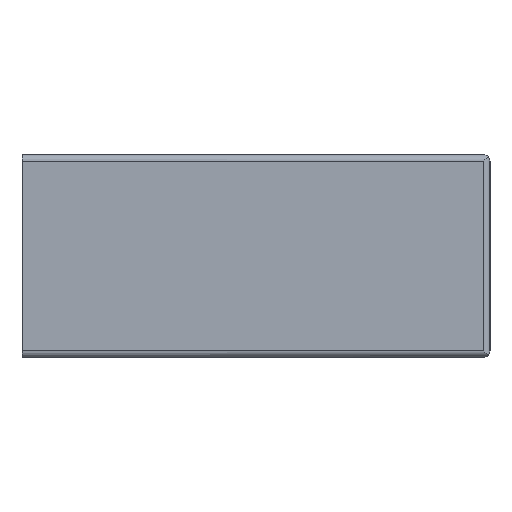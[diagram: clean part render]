
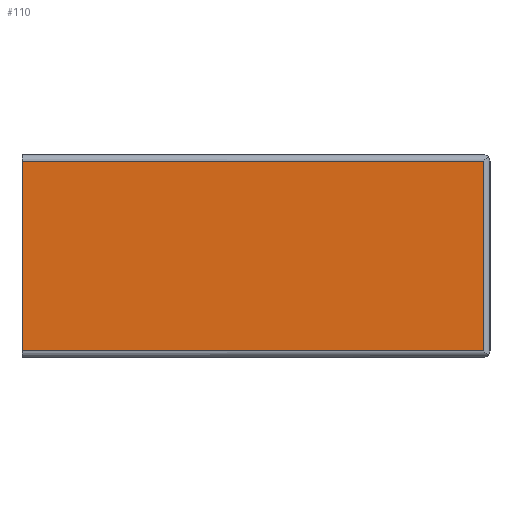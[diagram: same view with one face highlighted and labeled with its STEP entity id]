
A CAD part, left-side view. The second image highlights one B-rep face of the part: STEP entity #110.
In plain terms, the highlighted planar face has unit normal (-1, 0, 0).
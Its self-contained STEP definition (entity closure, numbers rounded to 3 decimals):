
#110 = ADVANCED_FACE( '', ( #184 ), #185, .T. );
#184 = FACE_OUTER_BOUND( '', #258, .T. );
#185 = PLANE( '', #259 );
#258 = EDGE_LOOP( '', ( #537, #538, #539, #540 ) );
#259 = AXIS2_PLACEMENT_3D( '', #541, #542, #543 );
#537 = ORIENTED_EDGE( '', *, *, #615, .T. );
#538 = ORIENTED_EDGE( '', *, *, #631, .T. );
#539 = ORIENTED_EDGE( '', *, *, #618, .F. );
#540 = ORIENTED_EDGE( '', *, *, #623, .F. );
#541 = CARTESIAN_POINT( '', ( -7.5, 0., 8. ) );
#542 = DIRECTION( '', ( -1., 0., 0. ) );
#543 = DIRECTION( '', ( 0., 1., 0. ) );
#615 = EDGE_CURVE( '', #755, #753, #756, .T. );
#618 = EDGE_CURVE( '', #758, #760, #761, .T. );
#623 = EDGE_CURVE( '', #755, #758, #767, .T. );
#631 = EDGE_CURVE( '', #753, #760, #775, .T. );
#753 = VERTEX_POINT( '', #939 );
#755 = VERTEX_POINT( '', #941 );
#756 = LINE( '', #942, #943 );
#758 = VERTEX_POINT( '', #945 );
#760 = VERTEX_POINT( '', #947 );
#761 = LINE( '', #948, #949 );
#767 = LINE( '', #958, #959 );
#775 = LINE( '', #970, #971 );
#939 = CARTESIAN_POINT( '', ( -7.5, 0., 7.5 ) );
#941 = CARTESIAN_POINT( '', ( -7.5, -36.5, 7.5 ) );
#942 = CARTESIAN_POINT( '', ( -7.5, -18.25, 7.5 ) );
#943 = VECTOR( '', #1101, 1. );
#945 = CARTESIAN_POINT( '', ( -7.5, -36.5, -7.5 ) );
#947 = CARTESIAN_POINT( '', ( -7.5, 0., -7.5 ) );
#948 = CARTESIAN_POINT( '', ( -7.5, -18.25, -7.5 ) );
#949 = VECTOR( '', #1108, 1. );
#958 = CARTESIAN_POINT( '', ( -7.5, -36.5, 8. ) );
#959 = VECTOR( '', #1115, 1. );
#970 = CARTESIAN_POINT( '', ( -7.5, 0., 8. ) );
#971 = VECTOR( '', #1131, 1. );
#1101 = DIRECTION( '', ( 0., 1., 0. ) );
#1108 = DIRECTION( '', ( 0., 1., 0. ) );
#1115 = DIRECTION( '', ( 0., 0., -1. ) );
#1131 = DIRECTION( '', ( 0., 0., -1. ) );
